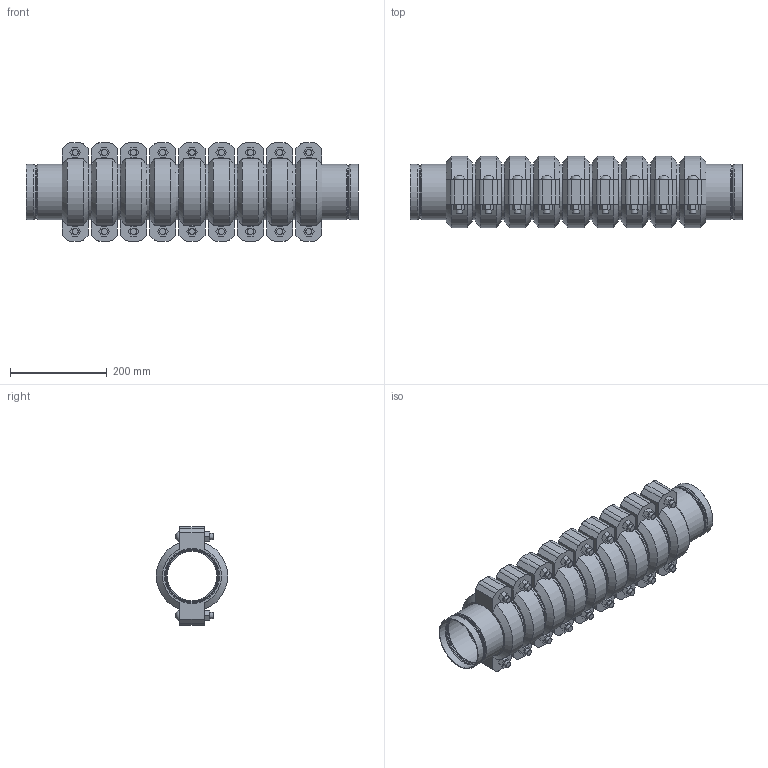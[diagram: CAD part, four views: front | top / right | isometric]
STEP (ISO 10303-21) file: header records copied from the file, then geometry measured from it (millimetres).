
FILE_DESCRIPTION(/* description */ ('VIC STRENGTHIN 100 EXPANSION JOINT 9 COUPLINGS COMPRESSED STYLE E155 (ST1)','CAx-IF Rec.Pracs.---Representation and Presentation of Product Manufacturing Information (PMI)---4.0---2014-10-13'),/* implementation_level */ '2;1');
FILE_NAME(/* name */ 'C:\Users\Vjadhav\AppData\Roaming\Autodesk\ApplicationPlugins\Victaulic.Temp\A705\Victaulic_SS-StrengThin 100_Expansion Joint_Compressed_9 Couplings_Style E155 (ST1)_4 (100).stp',/* time_stamp */ '2021-07-23T12:37:28+05:00',/* author */ ('kkamble'),/* organization */ ('Victaulic'),/* preprocessor_version */ 'ST-DEVELOPER v17.2',/* originating_system */ 'Autodesk Inventor 2019',/* authorisation */ '');
FILE_SCHEMA (('AP242_MANAGED_MODEL_BASED_3D_ENGINEERING_MIM_LF { 1 0 10303 442 1 1 4 }'));
Length unit declared in the file: inch
Products named in the file (4): E155-04.0; E494G-04.0; Nipple-04.0; 075-04.0
Assembly tree (19 placements, depth 2):
  E155-04.0
    E494G-04.0  x2
    Nipple-04.0  x8
    075-04.0  x9
Bounding box: 687.58 x 147.32 x 203.96 mm (x, y, z)
Volume: 5325697.4 mm3; surface area: 1218684.5 mm2
Topology: 19 solids, 37 shells, 641 faces, 1605 edges, 1132 vertices
Faces by surface type: plane 366, cylinder 185, cone 40, torus 32, bspline 18
Full cylindrical faces by diameter (mm): 12.7 x36, 14.605 x18, 102.26 x8, 105.639 x2, 106.883 x2, 108.839 x2, 110.084 x18, 111.1 x6, 114.3 x39
Entity records: 3711 total; most frequent: DIRECTION 663, CARTESIAN_POINT 651, ORIENTED_EDGE 536, AXIS2_PLACEMENT_3D 283, EDGE_CURVE 268, VERTEX_POINT 193, CIRCLE 163, EDGE_LOOP 123
